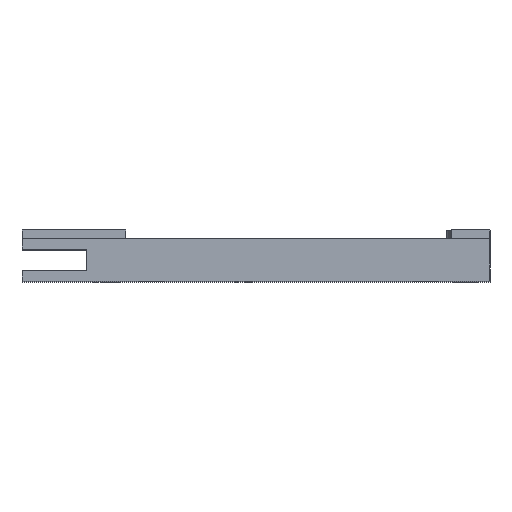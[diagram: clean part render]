
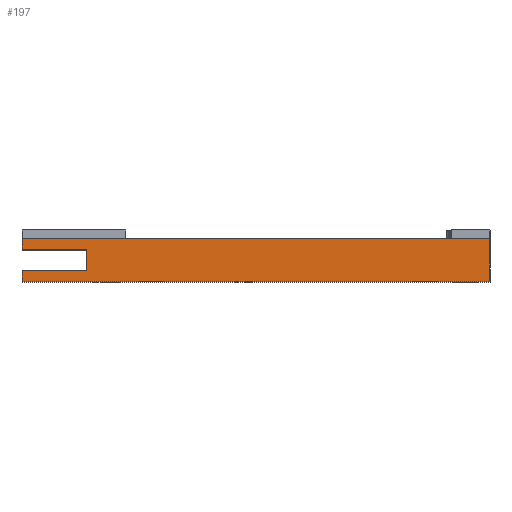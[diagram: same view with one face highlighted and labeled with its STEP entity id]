
A CAD part, top view. The second image highlights one B-rep face of the part: STEP entity #197.
In plain terms, the highlighted planar face has unit normal (0, 0, 1).
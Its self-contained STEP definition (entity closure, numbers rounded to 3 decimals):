
#197=ADVANCED_FACE('',(#364),#1560,.T.);
#364=FACE_OUTER_BOUND('',#569,.F.);
#569=EDGE_LOOP('',(#822,#823,#824,#825,#826,#827,#828,#829));
#822=ORIENTED_EDGE('',*,*,#2130,.T.);
#823=ORIENTED_EDGE('',*,*,#2162,.F.);
#824=ORIENTED_EDGE('',*,*,#2169,.T.);
#825=ORIENTED_EDGE('',*,*,#2164,.T.);
#826=ORIENTED_EDGE('',*,*,#2166,.T.);
#827=ORIENTED_EDGE('',*,*,#2231,.F.);
#828=ORIENTED_EDGE('',*,*,#2225,.T.);
#829=ORIENTED_EDGE('',*,*,#2232,.T.);
#1560=PLANE('',#3026);
#1625=LINE('',#4387,#1871);
#1635=LINE('',#4419,#1881);
#1637=LINE('',#4421,#1883);
#1639=LINE('',#4423,#1885);
#1642=LINE('',#4426,#1888);
#1682=LINE('',#4482,#1928);
#1688=LINE('',#4488,#1934);
#1689=LINE('',#4489,#1935);
#1871=VECTOR('',#3297,36.5);
#1881=VECTOR('',#3351,0.8);
#1883=VECTOR('',#3353,1.7);
#1885=VECTOR('',#3355,5.);
#1888=VECTOR('',#3358,5.);
#1928=VECTOR('',#3430,36.5);
#1934=VECTOR('',#3436,0.8);
#1935=VECTOR('',#3437,3.3);
#2130=EDGE_CURVE('',#2831,#2832,#1625,.T.);
#2162=EDGE_CURVE('',#2794,#2832,#1635,.T.);
#2164=EDGE_CURVE('',#2792,#2791,#1637,.T.);
#2166=EDGE_CURVE('',#2791,#2788,#1639,.T.);
#2169=EDGE_CURVE('',#2794,#2792,#1642,.T.);
#2225=EDGE_CURVE('',#2737,#2738,#1682,.T.);
#2231=EDGE_CURVE('',#2737,#2788,#1688,.T.);
#2232=EDGE_CURVE('',#2738,#2831,#1689,.T.);
#2737=VERTEX_POINT('',#4244);
#2738=VERTEX_POINT('',#4245);
#2788=VERTEX_POINT('',#4295);
#2791=VERTEX_POINT('',#4298);
#2792=VERTEX_POINT('',#4299);
#2794=VERTEX_POINT('',#4301);
#2831=VERTEX_POINT('',#4338);
#2832=VERTEX_POINT('',#4339);
#3026=AXIS2_PLACEMENT_3D('',#4665,#3664,#3665);
#3297=DIRECTION('',(-1.,0.,0.));
#3351=DIRECTION('',(0.,-1.,0.));
#3353=DIRECTION('',(0.,1.,0.));
#3355=DIRECTION('',(-1.,0.,0.));
#3358=DIRECTION('',(1.,0.,0.));
#3430=DIRECTION('',(1.,0.,0.));
#3436=DIRECTION('',(0.,-1.,0.));
#3437=DIRECTION('',(0.,-1.,0.));
#3664=DIRECTION('',(0.,0.,1.));
#3665=DIRECTION('',(-1.,0.,0.));
#4244=CARTESIAN_POINT('',(-12.547,14.068,24.435));
#4245=CARTESIAN_POINT('',(23.953,14.068,24.435));
#4295=CARTESIAN_POINT('',(-12.547,13.268,24.435));
#4298=CARTESIAN_POINT('',(-7.547,13.268,24.435));
#4299=CARTESIAN_POINT('',(-7.547,11.568,24.435));
#4301=CARTESIAN_POINT('',(-12.547,11.568,24.435));
#4338=CARTESIAN_POINT('',(23.953,10.768,24.435));
#4339=CARTESIAN_POINT('',(-12.547,10.768,24.435));
#4387=CARTESIAN_POINT('',(23.953,10.768,24.435));
#4419=CARTESIAN_POINT('',(-12.547,11.568,24.435));
#4421=CARTESIAN_POINT('',(-7.547,11.568,24.435));
#4423=CARTESIAN_POINT('',(-7.547,13.268,24.435));
#4426=CARTESIAN_POINT('',(-12.547,11.568,24.435));
#4482=CARTESIAN_POINT('',(-12.547,14.068,24.435));
#4488=CARTESIAN_POINT('',(-12.547,14.068,24.435));
#4489=CARTESIAN_POINT('',(23.953,14.068,24.435));
#4665=CARTESIAN_POINT('',(24.318,15.133,24.435));
